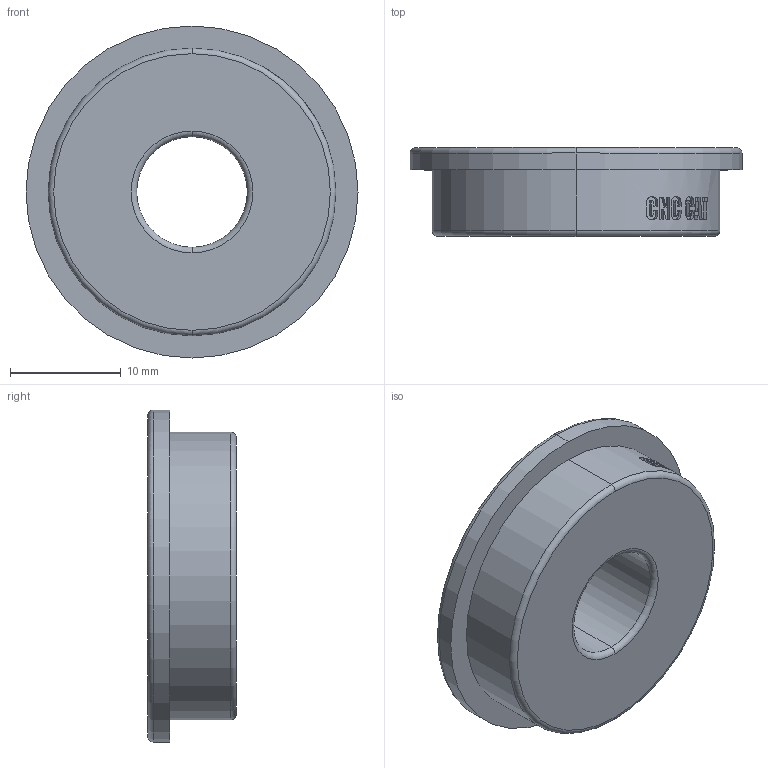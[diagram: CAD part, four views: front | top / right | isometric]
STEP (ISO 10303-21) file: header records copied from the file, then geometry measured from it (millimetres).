
FILE_DESCRIPTION (( 'STEP AP203' ), '1' );
FILE_NAME ('10x26x8.STEP', '2017-08-13T09:20:32', ( '' ), ( '' ), 'SwSTEP 2.0', 'SolidWorks 2014', '' );
FILE_SCHEMA (( 'CONFIG_CONTROL_DESIGN' ));
Length unit declared in the file: millimetre
Products named in the file (1): 10x26x8
Bounding box: 30 x 8 x 30 mm (x, y, z)
Volume: 3954.6 mm3; surface area: 2150.5 mm2
Topology: 1 solids, 1 shells, 101 faces, 265 edges, 174 vertices
Faces by surface type: plane 48, bspline 32, cylinder 13, torus 8
Entity records: 6718 total; most frequent: CARTESIAN_POINT 4403, ORIENTED_EDGE 530, DIRECTION 356, EDGE_CURVE 265, VERTEX_POINT 174, AXIS2_PLACEMENT_3D 136, B_SPLINE_CURVE_WITH_KNOTS 115, EDGE_LOOP 111
